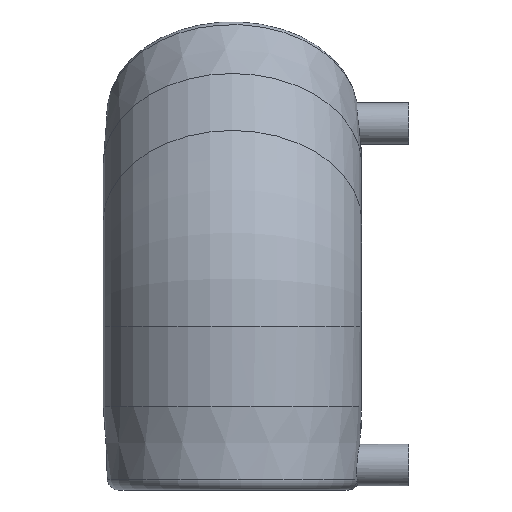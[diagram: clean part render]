
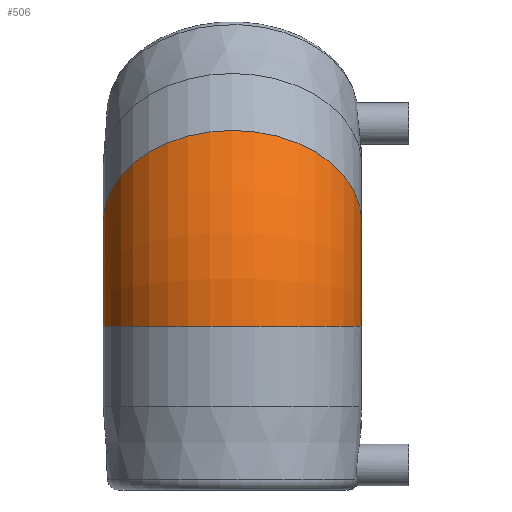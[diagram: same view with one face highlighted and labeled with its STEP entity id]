
A CAD part, left-side view. The second image highlights one B-rep face of the part: STEP entity #506.
In plain terms, the highlighted toroidal (fillet/blend) face has major radius 53.113 mm and minor radius 46.5 mm.
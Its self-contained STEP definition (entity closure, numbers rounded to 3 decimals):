
#23=TOROIDAL_SURFACE('',#593,53.113,46.5);
#162=ORIENTED_EDGE('',*,*,#246,.F.);
#163=ORIENTED_EDGE('',*,*,#245,.T.);
#245=EDGE_CURVE('',#296,#296,#326,.F.);
#246=EDGE_CURVE('',#297,#297,#327,.F.);
#296=VERTEX_POINT('',#990);
#297=VERTEX_POINT('',#993);
#326=CIRCLE('',#592,46.5);
#327=CIRCLE('',#594,46.5);
#381=EDGE_LOOP('',(#162));
#382=EDGE_LOOP('',(#163));
#446=FACE_BOUND('',#381,.T.);
#447=FACE_BOUND('',#382,.T.);
#506=ADVANCED_FACE('',(#446,#447),#23,.T.);
#592=AXIS2_PLACEMENT_3D('',#989,#736,#737);
#593=AXIS2_PLACEMENT_3D('',#991,#738,#739);
#594=AXIS2_PLACEMENT_3D('',#992,#740,#741);
#736=DIRECTION('',(0.,0.,-1.));
#737=DIRECTION('',(1.,0.,0.));
#738=DIRECTION('',(0.,1.,0.));
#739=DIRECTION('',(0.,0.,1.));
#740=DIRECTION('',(-0.707,0.,-0.707));
#741=DIRECTION('',(0.707,0.,-0.707));
#989=CARTESIAN_POINT('',(0.,0.,-22.));
#990=CARTESIAN_POINT('',(46.5,0.,-22.));
#991=CARTESIAN_POINT('',(53.113,0.,-22.));
#992=CARTESIAN_POINT('',(15.556,0.,15.556));
#993=CARTESIAN_POINT('',(48.437,0.,-17.324));
